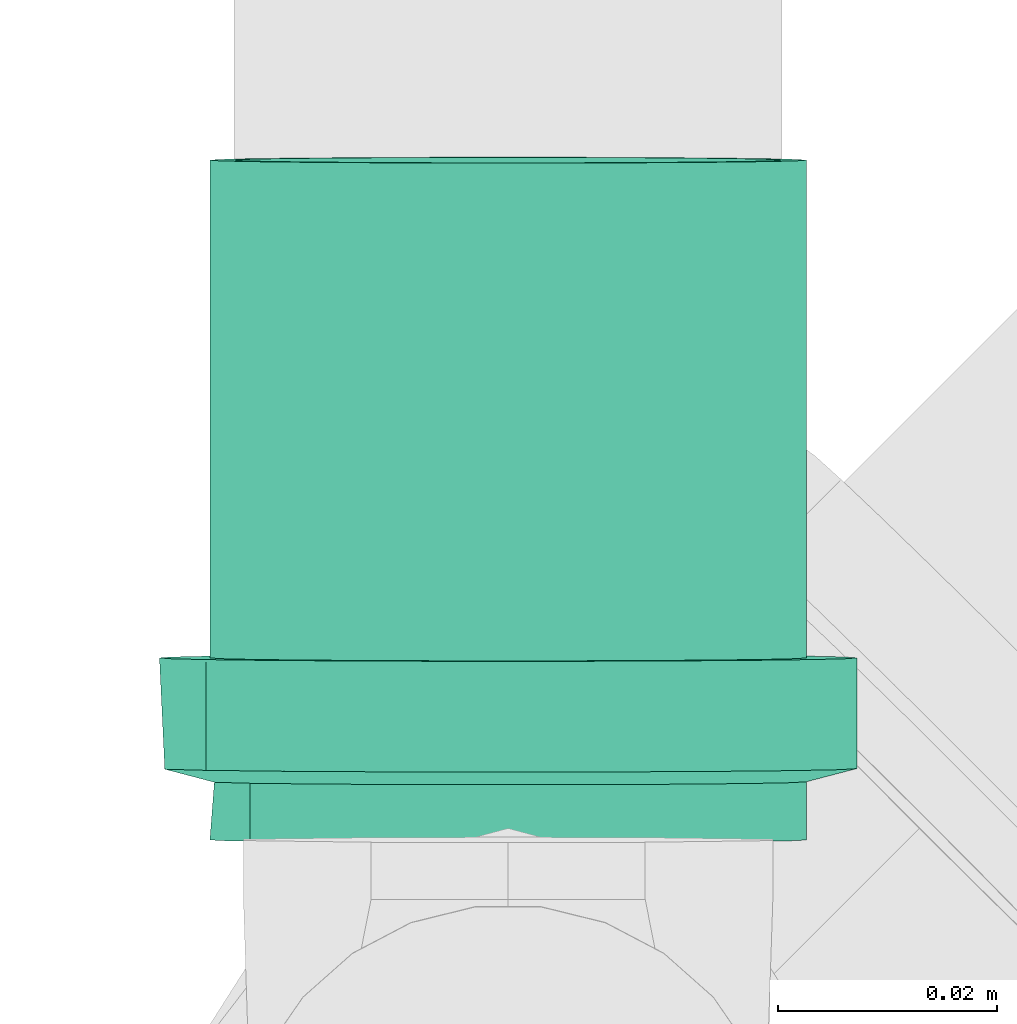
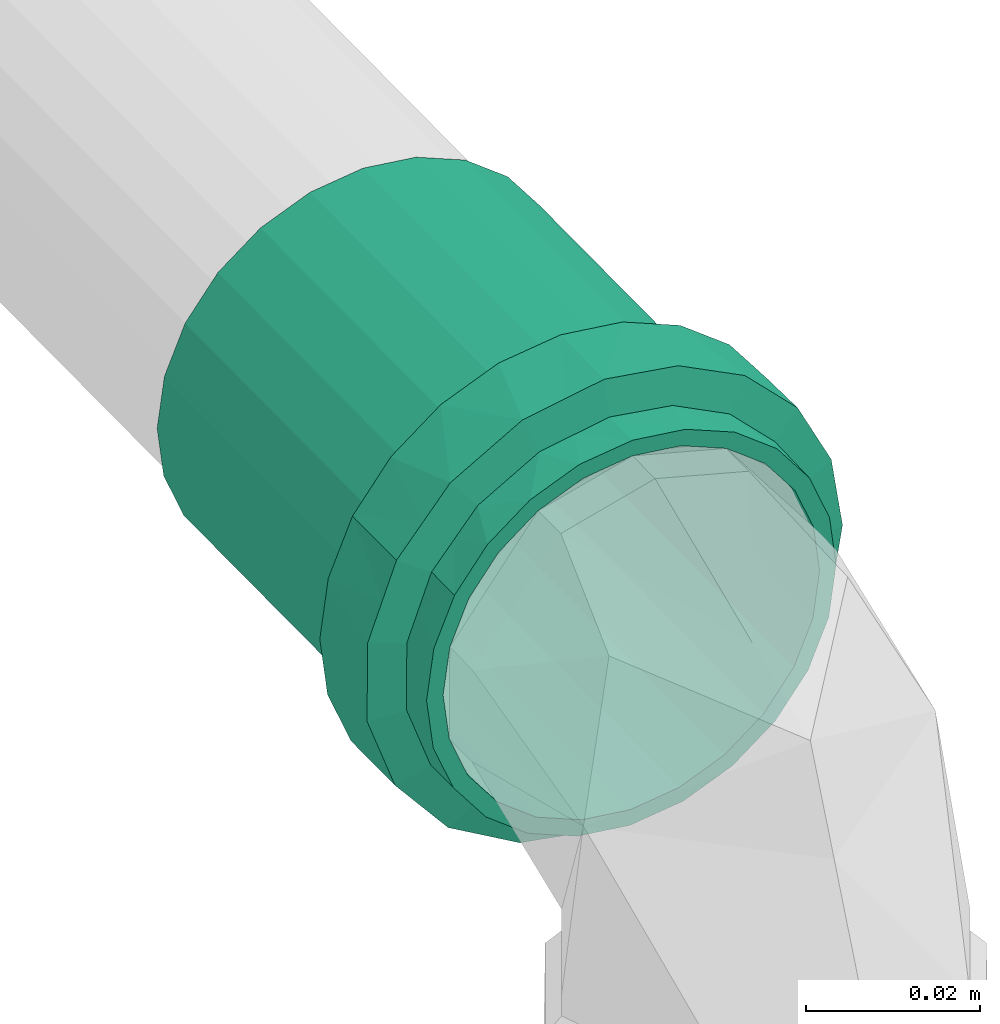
# One storey, part 200 of 589: 1 flow fitting.
"""IFC2X3 building model written with IfcOpenShell, lengths in millimetres."""

import ifcopenshell
import ifcopenshell.guid

model = None  # the IFC model being written
_history = None  # IfcOwnerHistory: only IFC2X3 demands one
_inside = {}  # id of a spatial element -> (the spatial element, [elements in it])
_under = {}  # id of a project, library or spatial element -> (it, [spatial elements below it])
_declared = {}  # id of a project -> (the project, [libraries it declares])
_typed = {}  # id of a type object -> (the type object, [elements of that type])
_made_of = {}  # id of a material, layer set ... -> (it, [elements and type objects made of it])


def new_model(schema):
    """Start an empty IFC model of exactly this schema.

    Asked for "IFC4X3", IfcOpenShell would pick the latest addendum, in which some entities
    have other attributes; the version numbers below select the first issue.
    IFC2X3 requires an IfcOwnerHistory on every rooted entity: one is made here for all.
    """
    global model, _history
    if schema == "IFC4X3":
        model = ifcopenshell.file(schema_version=(4, 3, 0, 0))
    else:
        model = ifcopenshell.file(schema=schema)
    _inside.clear()
    _under.clear()
    _declared.clear()
    _typed.clear()
    _made_of.clear()
    _history = None
    if model.schema == "IFC2X3":
        org = make("IfcOrganization", Name="unknown")
        user = make(
            "IfcPersonAndOrganization",
            ThePerson=make("IfcPerson", FamilyName="unknown"),
            TheOrganization=org,
        )
        app = make(
            "IfcApplication",
            ApplicationDeveloper=org,
            Version="unknown",
            ApplicationFullName="unknown",
            ApplicationIdentifier="unknown",
        )
        _history = make(
            "IfcOwnerHistory",
            OwningUser=user,
            OwningApplication=app,
            ChangeAction="ADDED",
            CreationDate=0,
        )
    return model


def make(cls, **values):
    """One entity of the class cls with the attributes given. An attribute that is None is left unset."""
    return model.create_entity(
        cls, **{name: value for name, value in values.items() if value is not None}
    )


def entity(cls, *values):
    """Any entity or typed value of the class cls, its attributes in the order of the schema. None: left unset."""
    e = model.create_entity(cls)
    for i, value in enumerate(values):
        if value is not None:
            e[i] = value
    return e


def rooted(cls, **values):
    """An entity with a GlobalId (a new one), such as an element, a storey or a relation."""
    return make(cls, GlobalId=ifcopenshell.guid.new(), OwnerHistory=_history, **values)


def si_unit(unit_type, name, prefix=None):
    """IfcSIUnit, for example si_unit("LENGTHUNIT", "METRE", prefix="MILLI")."""
    return make("IfcSIUnit", UnitType=unit_type, Prefix=prefix, Name=name)


def converted_unit(unit_type, name, factor, base, dimensions=None, offset=None):
    """IfcConversionBasedUnit, such as the inch: factor (a typed value) times the base unit."""
    return make(
        "IfcConversionBasedUnit"
        if offset is None
        else "IfcConversionBasedUnitWithOffset",
        ConversionOffset=offset,
        Dimensions=None
        if dimensions is None
        else entity("IfcDimensionalExponents", *dimensions),
        UnitType=unit_type,
        Name=name,
        ConversionFactor=make(
            "IfcMeasureWithUnit", ValueComponent=factor, UnitComponent=base
        ),
    )


def derived_unit(unit_type, elements):
    """IfcDerivedUnit: a product of units, each with its exponent."""
    return make(
        "IfcDerivedUnit",
        Elements=[
            make("IfcDerivedUnitElement", Unit=unit, Exponent=power)
            for unit, power in elements
        ],
        UnitType=unit_type,
    )


def assignment(units):
    """IfcUnitAssignment: the units of a project."""
    return None if units is None else make("IfcUnitAssignment", Units=units)


def point(xyz):
    """IfcCartesianPoint."""
    return None if xyz is None else make("IfcCartesianPoint", Coordinates=xyz)


def direction(xyz):
    """IfcDirection."""
    return None if xyz is None else make("IfcDirection", DirectionRatios=xyz)


def frame(location, z_axis=None, x_axis=None):
    """IfcAxis2Placement3D, a coordinate frame: its origin and axes. An axis left out is left unset."""
    return make(
        "IfcAxis2Placement3D",
        Location=point(location),
        Axis=direction(z_axis),
        RefDirection=direction(x_axis),
    )


def origin():
    """The frame at (0, 0, 0) with its axes left unset."""
    return frame((0.0, 0.0, 0.0))


def place(relative_to, where):
    """IfcLocalPlacement: puts the frame where relative to a parent placement (None: the world)."""
    return make(
        "IfcLocalPlacement", PlacementRelTo=relative_to, RelativePlacement=where
    )


def context(
    kind, dimensions, precision=None, world=None, true_north=None, identifier=None
):
    """IfcGeometricRepresentationContext, for example the 3D "Model" context."""
    return make(
        "IfcGeometricRepresentationContext",
        ContextIdentifier=identifier,
        ContextType=kind,
        CoordinateSpaceDimension=dimensions,
        Precision=precision,
        WorldCoordinateSystem=world,
        TrueNorth=true_north,
    )


def subcontext(parent, identifier, kind, view, scale=None):
    """IfcGeometricRepresentationSubContext, for example "Body" below "Model"."""
    return make(
        "IfcGeometricRepresentationSubContext",
        ContextIdentifier=identifier,
        ContextType=kind,
        ParentContext=parent,
        TargetScale=scale,
        TargetView=view,
    )


def project(units=None, contexts=None):
    """IfcProject with its units and contexts."""
    return rooted(
        "IfcProject",
        Name="project",
        RepresentationContexts=contexts,
        UnitsInContext=assignment(units),
    )


def spatial(cls, under=None, at=None, **own):
    """A site, building, storey or space (cls), placed at a placement, below another one or the project."""
    s = rooted(cls, ObjectPlacement=at, **own)
    if under is not None:
        _under.setdefault(under.id(), (under, []))[1].append(s)
    return s


def faces_of(points, faces, orient=None, outer=None):
    """IfcFace entities. A face is a list of loops; a loop is a list of indices into points, from 0.

    orient and outer hold one flag for each loop. By default every Orientation is true, the
    first loop of a face is its IfcFaceOuterBound and the others are IfcFaceBound.
    """
    made = []
    for i, loops in enumerate(faces):
        bounds = []
        for j, loop in enumerate(loops):
            is_outer = j == 0 if outer is None else outer[i][j]
            bounds.append(
                make(
                    "IfcFaceOuterBound" if is_outer else "IfcFaceBound",
                    Bound=make("IfcPolyLoop", Polygon=[points[k] for k in loop]),
                    Orientation=True if orient is None else orient[i][j],
                )
            )
        made.append(make("IfcFace", Bounds=bounds))
    return made


def faceted_brep(points, faces, orient=None, outer=None, voids=None):
    """IfcFacetedBrep: a solid bounded by flat faces; with voids (closed shells), ...WithVoids."""
    shared = [point(p) for p in points]
    hull = make("IfcClosedShell", CfsFaces=faces_of(shared, faces, orient, outer))
    if voids is None:
        return make("IfcFacetedBrep", Outer=hull)
    return make(
        "IfcFacetedBrepWithVoids",
        Outer=hull,
        Voids=[
            make(cls, CfsFaces=faces_of(shared, fs, o, b)) for cls, fs, o, b in voids
        ],
    )


def shape(context_of_items, identifier, shape_type, items):
    """IfcShapeRepresentation: the items that make up one representation, for example the "Body"."""
    return make(
        "IfcShapeRepresentation",
        ContextOfItems=context_of_items,
        RepresentationIdentifier=identifier,
        RepresentationType=shape_type,
        Items=items,
    )


def source(mapping_origin, context_of_items, identifier, shape_type, items):
    """IfcRepresentationMap: a shape defined once, which mapped items show again and again."""
    return make(
        "IfcRepresentationMap",
        MappingOrigin=mapping_origin,
        MappedRepresentation=shape(context_of_items, identifier, shape_type, items),
    )


def transform(
    local_origin,
    x_axis=None,
    y_axis=None,
    z_axis=None,
    scale=None,
    scale2=None,
    scale3=None,
    uniform=True,
):
    """IfcCartesianTransformationOperator3D, or its non-uniform kind. x_axis, y_axis, z_axis: its Axis1, 2, 3."""
    if uniform:
        return make(
            "IfcCartesianTransformationOperator3D",
            Axis1=direction(x_axis),
            Axis2=direction(y_axis),
            LocalOrigin=point(local_origin),
            Scale=scale,
            Axis3=direction(z_axis),
        )
    return make(
        "IfcCartesianTransformationOperator3DnonUniform",
        Axis1=direction(x_axis),
        Axis2=direction(y_axis),
        LocalOrigin=point(local_origin),
        Scale=scale,
        Axis3=direction(z_axis),
        Scale2=scale2,
        Scale3=scale3,
    )


def mapped(mapping_source, mapping_target):
    """IfcMappedItem: shows the shape of a source again, moved by a transform."""
    return make(
        "IfcMappedItem", MappingSource=mapping_source, MappingTarget=mapping_target
    )


def material(Name=None, Category=None):
    """IfcMaterial."""
    return make("IfcMaterial", Name=Name, Category=Category)


def made_of(thing, what):
    """Note that an element or type object is made of a material, layer set ...; save() writes the relation."""
    if what is not None:
        _made_of.setdefault(what.id(), (what, []))[1].append(thing)
    return thing


def type_object(cls, material=None, **own):
    """A type object (cls), such as IfcWallType, which elements share."""
    return made_of(rooted(cls, **own), material)


def type_shapes(of_type, sources):
    """Give a type object the sources (RepresentationMaps) that its elements show as mapped items."""
    of_type.RepresentationMaps = sources


def element(
    cls,
    number,
    at=None,
    inside=None,
    cuts=None,
    type_object=None,
    material=None,
    context=None,
    identifier="Body",
    shape_type=None,
    held_by="IfcProductDefinitionShape",
    body=None,
    shapes=None,
    **own,
):
    """One element of the class cls, such as IfcWall. Its Tag is "e" and its number.

    at: its placement. inside: the storey or other place that contains it. cuts: it is an
    opening in that element (IfcRelVoidsElement). A single representation is given by context,
    identifier, shape_type and body (its items); several are given by shapes. held_by: the class
    of the entity that holds the representations. save() writes the other relations.
    """
    e = rooted(cls, Tag="e%d" % number, ObjectPlacement=at, **own)
    if body is not None:
        shapes = [shape(context, identifier, shape_type, body)]
    if shapes is not None:
        e.Representation = make(held_by, Representations=shapes)
    if inside is not None:
        _inside.setdefault(inside.id(), (inside, []))[1].append(e)
    if cuts is not None:
        rooted(
            "IfcRelVoidsElement", RelatingBuildingElement=cuts, RelatedOpeningElement=e
        )
    if type_object is not None:
        _typed.setdefault(type_object.id(), (type_object, []))[1].append(e)
    return made_of(e, material)


def aggregate(whole, parts):
    """IfcRelAggregates: a whole, such as a stair, and the parts it consists of."""
    return rooted("IfcRelAggregates", RelatingObject=whole, RelatedObjects=parts)


def save(model, path):
    """Write the relations noted so far, then the file.

    IfcRelAggregates (storeys below a building ...), IfcRelContainedInSpatialStructure (elements
    in a storey), IfcRelDefinesByType, IfcRelAssociatesMaterial and IfcRelDeclares: one each for
    every whole, place, type object, material and project.
    """
    for whole, parts in _under.values():
        aggregate(whole, parts)
    for where, things in _inside.values():
        rooted(
            "IfcRelContainedInSpatialStructure",
            RelatedElements=things,
            RelatingStructure=where,
        )
    for kind, things in _typed.values():
        rooted("IfcRelDefinesByType", RelatedObjects=things, RelatingType=kind)
    for what, things in _made_of.values():
        rooted("IfcRelAssociatesMaterial", RelatedObjects=things, RelatingMaterial=what)
    for by, libraries in _declared.values():
        rooted("IfcRelDeclares", RelatingContext=by, RelatedDefinitions=libraries)
    model.write(path)


model = new_model("IFC2X3")

# Units and contexts
model_context = context("Model", 3, precision=0.01, world=origin(), true_north=direction((6.123031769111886e-17, 1.0)))
body_context = subcontext(model_context, "Body", "Model", "MODEL_VIEW")
ifc_project = project(units=[si_unit("LENGTHUNIT", "METRE", prefix="MILLI"), si_unit("AREAUNIT", "SQUARE_METRE"), si_unit("VOLUMEUNIT", "CUBIC_METRE"), converted_unit("PLANEANGLEUNIT", "DEGREE", entity("IfcRatioMeasure", 0.017453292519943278), si_unit("PLANEANGLEUNIT", "RADIAN"), dimensions=[0, 0, 0, 0, 0, 0, 0]), si_unit("MASSUNIT", "GRAM", prefix="KILO"), derived_unit("MASSDENSITYUNIT", [(si_unit("MASSUNIT", "GRAM", prefix="KILO"), 1), (si_unit("LENGTHUNIT", "METRE"), -3)]), derived_unit("IONCONCENTRATIONUNIT", [(si_unit("MASSUNIT", "GRAM", prefix="KILO"), 1), (si_unit("LENGTHUNIT", "METRE"), -3)]), derived_unit("MOMENTOFINERTIAUNIT", [(si_unit("LENGTHUNIT", "METRE"), 4)]), si_unit("TIMEUNIT", "SECOND"), si_unit("FREQUENCYUNIT", "HERTZ"), si_unit("THERMODYNAMICTEMPERATUREUNIT", "DEGREE_CELSIUS"), derived_unit("THERMALTRANSMITTANCEUNIT", [(si_unit("MASSUNIT", "GRAM", prefix="KILO"), 1), (si_unit("THERMODYNAMICTEMPERATUREUNIT", "KELVIN"), -1), (si_unit("TIMEUNIT", "SECOND"), -3)]), derived_unit("THERMALCONDUCTANCEUNIT", [(si_unit("MASSUNIT", "GRAM", prefix="KILO"), 1), (si_unit("THERMODYNAMICTEMPERATUREUNIT", "KELVIN"), -1), (si_unit("TIMEUNIT", "SECOND"), -3), (si_unit("LENGTHUNIT", "METRE"), 1)]), derived_unit("VOLUMETRICFLOWRATEUNIT", [(si_unit("LENGTHUNIT", "METRE"), 3), (si_unit("TIMEUNIT", "SECOND"), -1)]), derived_unit("MASSFLOWRATEUNIT", [(si_unit("MASSUNIT", "GRAM", prefix="KILO"), 1), (si_unit("TIMEUNIT", "SECOND"), -1)]), derived_unit("ROTATIONALFREQUENCYUNIT", [(si_unit("TIMEUNIT", "SECOND"), -1)]), si_unit("ELECTRICCURRENTUNIT", "AMPERE"), si_unit("ELECTRICVOLTAGEUNIT", "VOLT"), si_unit("POWERUNIT", "WATT"), si_unit("FORCEUNIT", "NEWTON", prefix="KILO"), si_unit("ILLUMINANCEUNIT", "LUX"), si_unit("LUMINOUSFLUXUNIT", "LUMEN"), si_unit("LUMINOUSINTENSITYUNIT", "CANDELA"), derived_unit("USERDEFINED", [(si_unit("MASSUNIT", "GRAM", prefix="KILO"), -1), (si_unit("LENGTHUNIT", "METRE"), -2), (si_unit("TIMEUNIT", "SECOND"), 3), (si_unit("LUMINOUSFLUXUNIT", "LUMEN"), 1)]), derived_unit("USERDEFINED", [(si_unit("MASSUNIT", "GRAM", prefix="KILO"), 1), (si_unit("TIMEUNIT", "SECOND"), -3), (si_unit("LENGTHUNIT", "METRE"), 3), (si_unit("ELECTRICCURRENTUNIT", "AMPERE"), -2)]), derived_unit("SOUNDPOWERUNIT", [(si_unit("MASSUNIT", "GRAM", prefix="KILO"), 1), (si_unit("TIMEUNIT", "SECOND"), -3), (si_unit("LENGTHUNIT", "METRE"), 2)]), derived_unit("SOUNDPRESSUREUNIT", [(si_unit("MASSUNIT", "GRAM", prefix="KILO"), 1), (si_unit("LENGTHUNIT", "METRE"), -1), (si_unit("TIMEUNIT", "SECOND"), -2)]), derived_unit("LINEARVELOCITYUNIT", [(si_unit("LENGTHUNIT", "METRE"), 1), (si_unit("TIMEUNIT", "SECOND"), -1)]), si_unit("PRESSUREUNIT", "PASCAL"), derived_unit("USERDEFINED", [(si_unit("MASSUNIT", "GRAM", prefix="KILO"), 1), (si_unit("LENGTHUNIT", "METRE"), -2), (si_unit("TIMEUNIT", "SECOND"), -2)]), derived_unit("LINEARFORCEUNIT", [(si_unit("MASSUNIT", "GRAM", prefix="KILO"), 1), (si_unit("TIMEUNIT", "SECOND"), -2)]), derived_unit("PLANARFORCEUNIT", [(si_unit("MASSUNIT", "GRAM", prefix="KILO"), 1), (si_unit("LENGTHUNIT", "METRE"), -1), (si_unit("TIMEUNIT", "SECOND"), -2)]), derived_unit("SPECIFICHEATCAPACITYUNIT", [(si_unit("THERMODYNAMICTEMPERATUREUNIT", "KELVIN"), -1), (si_unit("LENGTHUNIT", "METRE"), 2), (si_unit("TIMEUNIT", "SECOND"), -2)]), derived_unit("HEATINGVALUEUNIT", [(si_unit("LENGTHUNIT", "METRE"), 2), (si_unit("TIMEUNIT", "SECOND"), -2)]), derived_unit("VAPORPERMEABILITYUNIT", [(si_unit("LENGTHUNIT", "METRE"), -1), (si_unit("TIMEUNIT", "SECOND"), 1)]), derived_unit("DYNAMICVISCOSITYUNIT", [(si_unit("MASSUNIT", "GRAM", prefix="KILO"), 1), (si_unit("TIMEUNIT", "SECOND"), -1), (si_unit("LENGTHUNIT", "METRE"), -1)]), derived_unit("THERMALEXPANSIONCOEFFICIENTUNIT", [(si_unit("THERMODYNAMICTEMPERATUREUNIT", "KELVIN"), -1)]), derived_unit("MODULUSOFELASTICITYUNIT", [(si_unit("MASSUNIT", "GRAM", prefix="KILO"), 1), (si_unit("LENGTHUNIT", "METRE"), -1), (si_unit("TIMEUNIT", "SECOND"), -2)]), derived_unit("ISOTHERMALMOISTURECAPACITYUNIT", [(si_unit("LENGTHUNIT", "METRE"), 3), (si_unit("MASSUNIT", "GRAM", prefix="KILO"), -1)]), derived_unit("MOISTUREDIFFUSIVITYUNIT", [(si_unit("TIMEUNIT", "SECOND"), -1), (si_unit("LENGTHUNIT", "METRE"), 2)])], contexts=[model_context])

# Site, building, storey
site_placement = place(None, origin())
site = spatial("IfcSite", under=ifc_project, at=site_placement, Name="Default", CompositionType="ELEMENT")
building_placement = place(site_placement, origin())
building = spatial("IfcBuilding", under=site, at=building_placement, CompositionType="ELEMENT")
storey_placement = place(building_placement, frame((0.0, 0.0, 100.0)))
storey = spatial("IfcBuildingStorey", under=building, at=storey_placement, Name="TÉRREO", CompositionType="ELEMENT", Elevation=100.0)

# Flow fitting
ifc_material = material(Name="PVC Série Normal")
pipe_fitting_type = type_object("IfcPipeFittingType", Name="PVC Esgoto_Luva Simples para Conexão_Rodrigo MEP:Standard", PredefinedType="NOTDEFINED", material=ifc_material)
shared_shape = source(origin(), body_context, "Body", "Brep", [
    faceted_brep([(16.599999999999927, -13.599999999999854, -23.555890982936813), (16.599999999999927, -22.485995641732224, -22.485995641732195), (16.599999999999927, -15.900000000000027, -27.53960784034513), (16.599999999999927, -19.233304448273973, -19.233304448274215), (16.599999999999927, -7.039878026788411, -26.273182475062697), (16.599999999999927, -27.539607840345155, -15.899999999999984), (16.599999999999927, -23.55589098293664, -13.600000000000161), (16.599999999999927, -26.273182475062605, -7.03987802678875), (16.599999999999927, -30.716441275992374, -8.230445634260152), (16.599999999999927, -27.2, 0.0), (16.599999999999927, -31.8, 0.0), (16.599999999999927, -26.273182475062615, 7.0398780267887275), (16.599999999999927, -30.71644127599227, 8.23044563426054), (16.599999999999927, -23.555890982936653, 13.60000000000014), (16.599999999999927, -27.539607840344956, 15.900000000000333), (16.599999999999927, -19.233304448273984, 19.2333044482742), (16.599999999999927, -22.485995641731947, 22.48599564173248), (16.599999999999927, -13.599999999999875, 23.555890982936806), (16.599999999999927, -15.899999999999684, 27.53960784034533), (16.599999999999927, -7.039878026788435, 26.27318247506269), (16.599999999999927, -8.230445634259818, 30.716441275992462), (16.599999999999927, 0.0, 27.2), (16.599999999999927, 0.0, 31.8), (16.599999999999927, 7.039878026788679, 26.273182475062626), (16.599999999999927, 8.230445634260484, 30.716441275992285), (16.599999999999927, 13.600000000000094, 23.555890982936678), (16.599999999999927, 15.900000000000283, 27.53960784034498), (16.599999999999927, 19.23330444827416, 19.233304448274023), (16.599999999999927, 22.485995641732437, 22.48599564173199), (16.599999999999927, 23.55589098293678, 13.59999999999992), (16.599999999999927, 27.539607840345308, 15.899999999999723), (16.599999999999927, 30.71644127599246, 8.230445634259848), (16.599999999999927, 26.273182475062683, 7.039878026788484), (16.599999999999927, 31.8, 0.0), (16.599999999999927, 27.2, 0.0), (16.599999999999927, 30.71644127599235, -8.23044563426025), (16.599999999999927, 26.273182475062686, -7.03987802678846), (16.599999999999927, 27.53960784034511, -15.90000000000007), (16.599999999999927, 23.55589098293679, -13.599999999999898), (16.599999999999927, 22.485995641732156, -22.485995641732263), (16.599999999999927, 19.233304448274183, -19.233304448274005), (16.599999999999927, 15.899999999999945, -27.53960784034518), (16.599999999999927, 13.600000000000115, -23.555890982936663), (16.599999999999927, 8.230445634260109, -30.716441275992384), (16.599999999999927, 7.039878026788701, -26.273182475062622), (16.599999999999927, 0.0, -31.8), (16.599999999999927, 0.0, -27.2), (16.599999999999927, -8.2304456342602, -30.71644127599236), (6.5000000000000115, 31.8, 0.0), (6.500000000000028, 30.243828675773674, 9.826028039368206), (6.500000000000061, 18.6933889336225, 25.72541953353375), (6.500000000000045, 25.727620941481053, 18.69035903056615), (6.500000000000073, 9.829589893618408, 30.24267122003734), (6.50000000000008, 0.0037451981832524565, 31.799999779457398), (6.5000000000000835, -9.822466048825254, 30.244985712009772), (6.500000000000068, -25.723217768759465, 18.696418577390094), (6.50000000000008, -18.687328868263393, 25.729821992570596), (6.50000000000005, -30.24167131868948, 9.832665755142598), (6.5000000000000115, -31.8, 0.0), (6.499999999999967, -24.364200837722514, -20.435892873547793), (6.499999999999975, -27.12442527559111, -15.652735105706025), (6.499999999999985, -29.884649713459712, -10.869577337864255), (6.499999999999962, -20.134403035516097, -23.986420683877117), (6.4999999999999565, -15.904605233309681, -27.53694849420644), (6.499999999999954, -10.715490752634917, -29.42653259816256), (6.499999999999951, -5.526376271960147, -31.31611670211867), (6.499999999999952, -0.003927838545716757, -31.316809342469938), (6.499999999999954, 5.518520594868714, -31.317501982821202), (6.499999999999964, 15.897697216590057, -27.54093722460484), (6.499999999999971, 20.128385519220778, -23.99147055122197), (6.499999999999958, 10.70810890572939, -29.42921960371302), (6.499999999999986, 27.12049800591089, -15.659538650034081), (6.499999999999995, 29.881922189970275, -10.877073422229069), (6.499999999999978, 24.359073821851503, -20.442003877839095), (6.499999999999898, 30.69617385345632, -6.259599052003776), (6.500000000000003, 30.84096109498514, -5.438536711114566), (62.0, -12.499999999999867, -21.650635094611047), (62.0, -19.233304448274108, -19.23330444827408), (62.0, -13.600000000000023, -23.55589098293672), (62.0, -6.470476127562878, -24.14814565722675), (62.0, -17.677669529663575, -17.677669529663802), (62.0, -23.55589098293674, -13.599999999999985), (62.0, -21.65063509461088, -12.50000000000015), (62.0, -24.148145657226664, -6.470476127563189), (62.0, -26.27318247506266, -7.039878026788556), (62.0, -25.0, 0.0), (62.0, -27.2, 0.0), (62.0, -24.148145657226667, 6.4704761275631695), (62.0, -26.273182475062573, 7.03987802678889), (62.0, -21.650635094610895, 12.500000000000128), (62.0, -23.555890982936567, 13.600000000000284), (62.0, -17.67766952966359, 17.67766952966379), (62.0, -19.233304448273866, 19.233304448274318), (62.0, -12.499999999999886, 21.650635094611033), (62.0, -13.59999999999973, 23.55589098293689), (62.0, -6.4704761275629, 24.14814565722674), (62.0, -7.039878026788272, 26.273182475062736), (62.0, 0.0, 25.0), (62.0, 0.0, 27.2), (62.0, 6.470476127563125, 24.148145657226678), (62.0, 7.039878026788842, 26.273182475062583), (62.0, 12.500000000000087, 21.650635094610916), (62.0, 13.600000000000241, 23.555890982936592), (62.0, 17.677669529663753, 17.677669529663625), (62.0, 19.233304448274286, 19.2333044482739), (62.0, 21.65063509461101, 12.499999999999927), (62.0, 23.555890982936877, 13.599999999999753), (62.0, 26.27318247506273, 7.039878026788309), (62.0, 24.14814565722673, 6.470476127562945), (62.0, 27.2, 0.0), (62.0, 25.0, 0.0), (62.0, 26.27318247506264, -7.0398780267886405), (62.0, 24.148145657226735, -6.470476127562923), (62.0, 23.5558909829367, -13.600000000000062), (62.0, 21.650635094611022, -12.499999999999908), (62.0, 19.233304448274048, -19.233304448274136), (62.0, 17.67766952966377, -17.677669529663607), (62.0, 13.599999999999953, -23.555890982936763), (62.0, 12.500000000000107, -21.650635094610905), (62.0, 7.039878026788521, -26.27318247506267), (62.0, 6.470476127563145, -24.148145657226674), (62.0, 0.0, -27.2), (62.0, 0.0, -25.0), (62.0, -7.039878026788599, -26.273182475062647), (0.0, -13.600000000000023, -23.55589098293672), (0.0, -19.233304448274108, -19.23330444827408), (0.0, -12.499999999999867, -21.650635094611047), (0.0, -6.470476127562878, -24.14814565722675), (0.0, -7.039878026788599, -26.273182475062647), (0.0, -17.677669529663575, -17.677669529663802), (0.0, -23.55589098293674, -13.599999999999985), (0.0, -21.65063509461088, -12.50000000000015), (0.0, -24.148145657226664, -6.470476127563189), (0.0, -26.27318247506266, -7.039878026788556), (0.0, -25.0, 0.0), (0.0, -27.2, 0.0), (0.0, -24.148145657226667, 6.4704761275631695), (0.0, -26.273182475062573, 7.03987802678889), (0.0, -21.650635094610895, 12.500000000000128), (0.0, -23.555890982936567, 13.600000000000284), (0.0, -17.67766952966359, 17.67766952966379), (0.0, -19.233304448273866, 19.233304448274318), (0.0, -12.499999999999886, 21.650635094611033), (0.0, -13.59999999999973, 23.55589098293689), (0.0, -6.4704761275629, 24.14814565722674), (0.0, -7.039878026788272, 26.273182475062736), (0.0, 0.0, 25.0), (0.0, 0.0, 27.2), (0.0, 6.470476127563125, 24.148145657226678), (0.0, 7.039878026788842, 26.273182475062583), (0.0, 12.500000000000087, 21.650635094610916), (0.0, 13.600000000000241, 23.555890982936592), (0.0, 17.677669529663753, 17.677669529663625), (0.0, 19.233304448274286, 19.2333044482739), (0.0, 21.65063509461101, 12.499999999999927), (0.0, 23.555890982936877, 13.599999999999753), (0.0, 26.27318247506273, 7.039878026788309), (0.0, 24.14814565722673, 6.470476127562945), (0.0, 27.2, 0.0), (0.0, 25.0, 0.0), (0.0, 26.27318247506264, -7.0398780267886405), (0.0, 24.148145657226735, -6.470476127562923), (0.0, 23.5558909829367, -13.600000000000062), (0.0, 21.650635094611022, -12.499999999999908), (0.0, 19.233304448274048, -19.233304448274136), (0.0, 17.67766952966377, -17.677669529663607), (0.0, 13.599999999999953, -23.555890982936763), (0.0, 12.500000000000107, -21.650635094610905), (0.0, 7.039878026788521, -26.27318247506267), (0.0, 6.470476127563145, -24.148145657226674), (0.0, 0.0, -27.2), (0.0, 0.0, -25.0), (5.299999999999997, 27.2, 0.0), (5.300000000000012, 25.868346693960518, 8.406464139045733), (5.300000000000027, 22.003776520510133, 15.989803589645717), (5.30000000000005, 8.400454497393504, 25.870298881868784), (5.300000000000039, 15.9846915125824, 22.007490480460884), (5.300000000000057, -0.00631876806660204, 27.199999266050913), (5.30000000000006, -8.412473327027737, 25.866393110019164), (5.3000000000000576, -15.99491480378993, 22.00006137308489), (5.300000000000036, -25.8722496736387, 8.394444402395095), (5.30000000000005, -22.011203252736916, 15.97957857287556), (5.299999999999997, -27.2, 0.0), (5.299999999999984, -25.56171296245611, -9.29724854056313), (5.2999999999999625, -17.22187932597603, -20.516686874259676), (5.299999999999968, -20.839819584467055, -17.47975742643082), (5.299999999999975, -23.200766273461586, -13.388502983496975), (5.2999999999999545, -9.165451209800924, -25.169864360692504), (5.299999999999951, -4.726963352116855, -26.78611239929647), (5.299999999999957, -13.603939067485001, -23.553616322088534), (5.29999999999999, 26.379689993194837, -4.651830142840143), (5.299999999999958, 13.5980303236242, -23.55702806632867), (5.299999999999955, 9.159137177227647, -25.17216267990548), (5.299999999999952, 4.720244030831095, -26.787297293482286), (5.299999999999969, 20.83543421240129, -17.484984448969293), (5.299999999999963, 17.216732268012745, -20.52100625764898), (5.299999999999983, 25.559379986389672, -9.303660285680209), (5.299999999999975, 23.197407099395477, -13.394322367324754), (5.299999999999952, -0.0033596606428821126, -26.78670484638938), (39.0, 25.0, 0.0), (39.0, -25.0, 0.0)], [[[0, 1, 2]], [[3, 1, 0]], [[4, 0, 2]], [[1, 3, 5]], [[5, 3, 6]], [[5, 6, 7]], [[8, 5, 7]], [[9, 8, 7]], [[10, 8, 9]], [[10, 9, 11]], [[12, 10, 11]], [[12, 11, 13]], [[14, 12, 13]], [[14, 13, 15]], [[15, 16, 14]], [[15, 17, 16]], [[17, 18, 16]], [[19, 18, 17]], [[18, 19, 20]], [[21, 20, 19]], [[22, 20, 21]], [[23, 22, 21]], [[24, 22, 23]], [[25, 24, 23]], [[24, 25, 26]], [[25, 27, 26]], [[28, 26, 27]], [[28, 27, 29]], [[28, 29, 30]], [[30, 29, 31]], [[31, 29, 32]], [[33, 31, 32]], [[33, 32, 34]], [[33, 34, 35]], [[34, 36, 35]], [[37, 35, 36]], [[37, 36, 38]], [[39, 37, 38]], [[40, 39, 38]], [[40, 41, 39]], [[42, 41, 40]], [[43, 41, 42]], [[42, 44, 43]], [[43, 44, 45]], [[44, 46, 45]], [[46, 4, 47]], [[45, 46, 47]], [[2, 47, 4]], [[33, 48, 31]], [[31, 49, 30]], [[26, 28, 50]], [[51, 28, 30]], [[24, 26, 52]], [[49, 51, 30]], [[31, 48, 49]], [[50, 52, 26]], [[28, 51, 50]], [[52, 53, 24]], [[53, 22, 24]], [[20, 53, 54]], [[20, 54, 18]], [[14, 16, 55]], [[56, 16, 18]], [[12, 14, 57]], [[56, 55, 16]], [[18, 54, 56]], [[57, 58, 12]], [[14, 55, 57]], [[58, 10, 12]], [[22, 53, 20]], [[8, 10, 58]], [[59, 1, 5]], [[60, 59, 5, 61]], [[2, 62, 63]], [[8, 58, 61]], [[2, 63, 64]], [[47, 2, 64]], [[64, 65, 47]], [[62, 1, 59]], [[66, 67, 45, 65]], [[41, 68, 69]], [[1, 62, 2]], [[39, 41, 69]], [[8, 61, 5]], [[43, 45, 67]], [[68, 41, 70]], [[71, 72, 37, 73]], [[43, 70, 41]], [[72, 35, 37]], [[69, 73, 39]], [[70, 43, 67]], [[47, 65, 45]], [[39, 73, 37]], [[35, 72, 74, 75]], [[33, 75, 48]], [[35, 75, 33]], [[76, 77, 78]], [[79, 76, 78]], [[80, 77, 76]], [[77, 80, 81]], [[82, 81, 80]], [[83, 81, 82]], [[81, 83, 84]], [[83, 85, 84]], [[86, 84, 85]], [[86, 85, 87]], [[87, 88, 86]], [[89, 88, 87]], [[88, 89, 90]], [[91, 90, 89]], [[92, 90, 91]], [[92, 91, 93]], [[93, 94, 92]], [[95, 94, 93]], [[94, 95, 96]], [[97, 96, 95]], [[98, 96, 97]], [[99, 98, 97]], [[100, 98, 99]], [[101, 100, 99]], [[100, 101, 102]], [[101, 103, 102]], [[104, 102, 103]], [[103, 105, 104]], [[104, 105, 106]], [[107, 106, 105]], [[105, 108, 107]], [[107, 108, 109]], [[108, 110, 109]], [[109, 110, 111]], [[110, 112, 111]], [[113, 111, 112]], [[112, 114, 113]], [[115, 113, 114]], [[116, 115, 114]], [[116, 117, 115]], [[118, 117, 116]], [[119, 117, 118]], [[118, 120, 119]], [[119, 120, 121]], [[120, 122, 121]], [[122, 79, 123]], [[121, 122, 123]], [[78, 123, 79]], [[124, 125, 126]], [[124, 126, 127]], [[127, 128, 124]], [[126, 125, 129]], [[130, 129, 125]], [[129, 130, 131]], [[131, 130, 132]], [[133, 132, 130]], [[133, 134, 132]], [[134, 133, 135]], [[136, 134, 135]], [[135, 137, 136]], [[136, 137, 138]], [[139, 138, 137]], [[138, 139, 140]], [[140, 139, 141]], [[142, 140, 141]], [[141, 143, 142]], [[142, 143, 144]], [[145, 144, 143]], [[144, 145, 146]], [[146, 145, 147]], [[146, 147, 148]], [[148, 147, 149]], [[148, 149, 150]], [[151, 150, 149]], [[151, 152, 150]], [[152, 151, 153]], [[153, 154, 152]], [[155, 154, 153]], [[154, 155, 156]], [[156, 157, 154]], [[158, 157, 156]], [[158, 159, 157]], [[160, 159, 158]], [[160, 161, 159]], [[161, 160, 162]], [[162, 163, 161]], [[163, 162, 164]], [[163, 164, 165]], [[164, 166, 165]], [[165, 166, 167]], [[167, 166, 168]], [[168, 169, 167]], [[170, 169, 168]], [[128, 171, 170]], [[170, 171, 169]], [[128, 127, 171]], [[172, 156, 173]], [[173, 155, 174]], [[175, 176, 151]], [[175, 149, 177]], [[153, 176, 174]], [[177, 149, 147]], [[156, 155, 173]], [[172, 158, 156]], [[32, 107, 109, 34]], [[153, 151, 176]], [[174, 155, 153]], [[151, 149, 175]], [[177, 145, 178]], [[178, 143, 179]], [[180, 181, 139]], [[141, 181, 179]], [[182, 180, 137]], [[143, 141, 179]], [[178, 145, 143]], [[139, 137, 180]], [[181, 141, 139]], [[137, 135, 182]], [[86, 88, 11, 9]], [[147, 145, 177]], [[183, 182, 133]], [[184, 185, 125]], [[186, 183, 130, 185]], [[187, 128, 188]], [[183, 133, 130]], [[182, 135, 133]], [[86, 9, 7, 84]], [[128, 187, 124]], [[124, 189, 184]], [[125, 185, 130]], [[160, 158, 190]], [[166, 191, 192]], [[187, 189, 124]], [[168, 166, 192]], [[188, 128, 170]], [[125, 124, 184]], [[192, 193, 168]], [[194, 195, 164]], [[190, 196, 160]], [[197, 194, 162, 196]], [[160, 196, 162]], [[164, 195, 166]], [[198, 188, 170, 193]], [[168, 193, 170]], [[194, 164, 162]], [[166, 195, 191]], [[158, 172, 190]], [[199, 110, 108, 157, 159]], [[103, 101, 150, 152]], [[152, 154, 105, 103]], [[154, 157, 108, 105]], [[148, 150, 101, 99]], [[99, 97, 146, 148]], [[144, 146, 97, 95]], [[93, 142, 144, 95]], [[89, 87, 136, 138]], [[138, 140, 91, 89]], [[140, 142, 93, 91]], [[200, 134, 136, 87, 85]], [[85, 83, 132, 134, 200]], [[80, 76, 126, 129]], [[132, 83, 82, 131]], [[80, 129, 131, 82]], [[127, 126, 76, 79]], [[79, 122, 171, 127]], [[169, 171, 122, 120]], [[118, 167, 169, 120]], [[114, 112, 161, 163]], [[163, 165, 116, 114]], [[165, 167, 118, 116]], [[199, 159, 161, 112, 110]], [[190, 172, 48, 75, 74, 72, 196]], [[197, 196, 72, 71, 73, 194]], [[195, 194, 73, 69, 68, 191]], [[68, 70, 67, 193, 192, 191]], [[66, 65, 188, 198, 193, 67]], [[63, 189, 187, 188, 65, 64]], [[58, 182, 183, 61]], [[59, 60, 61, 183, 186, 185]], [[63, 62, 59, 185, 184, 189]], [[57, 181, 180]], [[54, 177, 178]], [[56, 178, 179]], [[55, 179, 181]], [[58, 180, 182]], [[58, 57, 180]], [[181, 57, 55]], [[55, 56, 179]], [[56, 54, 178]], [[54, 53, 177]], [[52, 176, 175]], [[49, 172, 173]], [[51, 173, 174]], [[50, 174, 176]], [[52, 50, 176]], [[175, 53, 52]], [[50, 51, 174]], [[173, 51, 49]], [[172, 49, 48]], [[177, 53, 175]], [[106, 107, 32, 29]], [[102, 104, 27, 25]], [[27, 104, 106, 29]], [[100, 102, 25, 23]], [[23, 21, 98, 100]], [[94, 96, 19, 17]], [[94, 17, 15, 92]], [[88, 90, 13, 11]], [[13, 90, 92, 15]], [[98, 21, 19, 96]], [[84, 7, 6, 81]], [[0, 4, 123, 78]], [[77, 81, 6, 3]], [[77, 3, 0, 78]], [[4, 46, 121, 123]], [[117, 119, 44, 42]], [[117, 42, 40, 115]], [[111, 113, 38, 36]], [[38, 113, 115, 40]], [[109, 111, 36, 34]], [[121, 46, 44, 119]]]),
])
type_shapes(pipe_fitting_type, [shared_shape])
flow_fitting_placement = place(storey_placement, frame((7846.407235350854, -142.12187183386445, 83.51027720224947), z_axis=(1.0, 0.0, 0.0), x_axis=(0.0, 0.9999500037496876, 0.009999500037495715)))
element("IfcFlowFitting", 1, at=flow_fitting_placement, inside=storey, type_object=pipe_fitting_type, material=ifc_material, Name="PVC Esgoto_Luva Simples para Conexão_Rodrigo MEP:Standard", ObjectType="PVC Esgoto_Luva Simples para Conexão_Rodrigo MEP:Standard", context=body_context, shape_type="MappedRepresentation", body=[
    mapped(shared_shape, transform((0.0, 0.0, 0.0), scale=1.0)),
])

save(model, "model.ifc")
